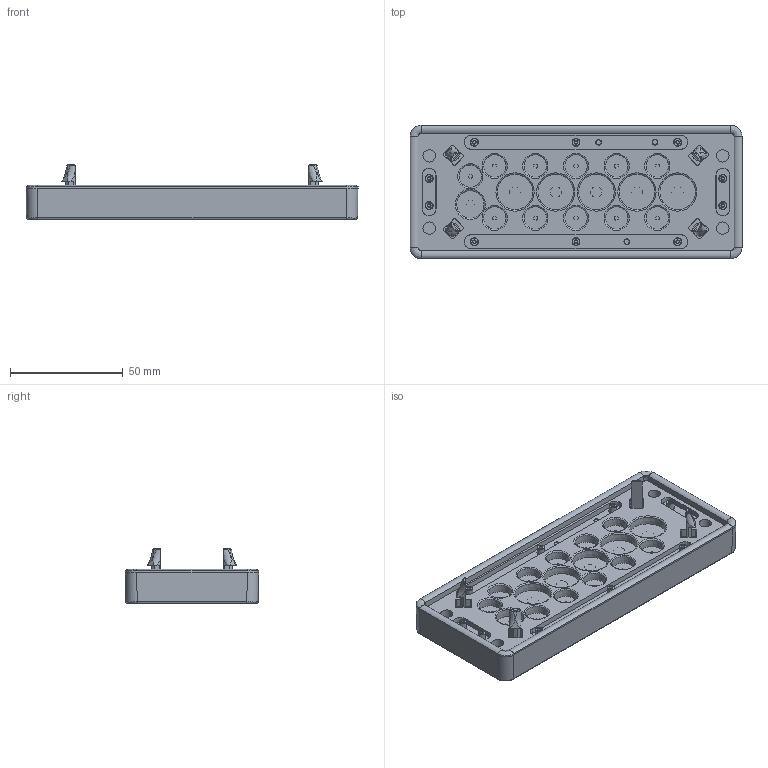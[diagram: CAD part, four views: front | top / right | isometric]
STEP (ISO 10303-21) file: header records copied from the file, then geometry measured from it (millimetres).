
FILE_DESCRIPTION(/* description */ (''),/* implementation_level */ '2;1');
FILE_NAME(/* name */ 'KDP-N_24-17_1.stp',/* time_stamp */ '2021-03-11T14:21:17+08:00',/* author */ (''),/* organization */ (''),/* preprocessor_version */ 'ST-DEVELOPER v16.7',/* originating_system */ 'SIEMENS PLM Software NX 12.0',/* authorisation */ '');
FILE_SCHEMA (('AP203_CONFIGURATION_CONTROLLED_3D_DESIGN_OF_MECHANICAL_PARTS_AND_ASSEMBLIES_MIM_LF { 1 0 10303 403 2 1 2}'));
Products named in the file (1): 91476430CCAAs578
Bounding box: 147 x 59 x 24 mm (x, y, z)
Volume: 72459.9 mm3; surface area: 58691.3 mm2
Topology: 2 solids, 7 shells, 1707 faces, 4487 edges, 2923 vertices
Faces by surface type: plane 740, extrusion 347, cylinder 219, bspline 192, cone 120, torus 89
Full cylindrical faces by diameter (mm): 2.5 x6, 3.5 x20, 5.5 x8, 7.5 x11, 9 x5, 13.2 x5
Entity records: 61611 total; most frequent: CARTESIAN_POINT 23356, ORIENTED_EDGE 8420, DIRECTION 5857, EDGE_CURVE 4210, VERTEX_POINT 2830, B_SPLINE_CURVE_WITH_KNOTS 2253, EDGE_LOOP 2162, AXIS2_PLACEMENT_3D 2053
